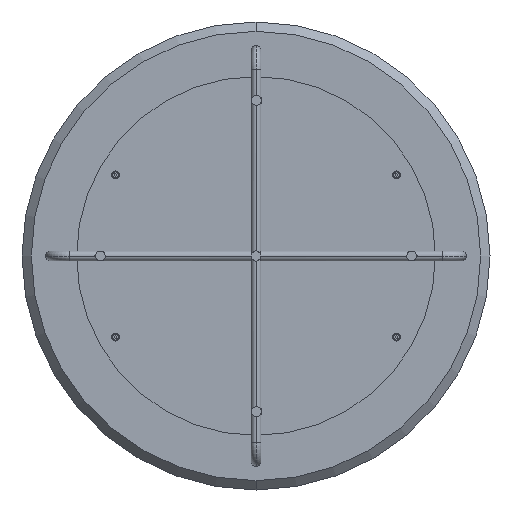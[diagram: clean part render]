
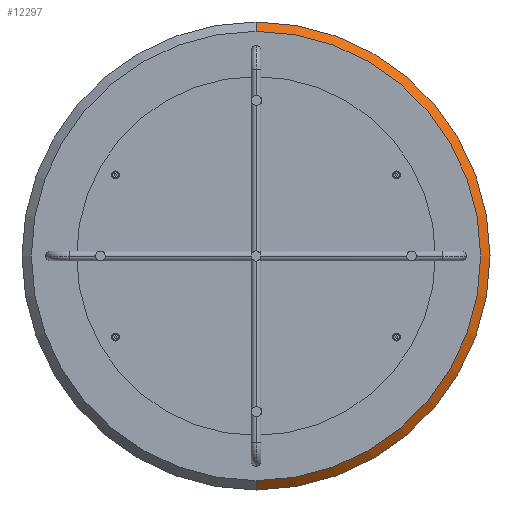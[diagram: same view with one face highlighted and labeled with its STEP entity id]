
A CAD part, front view. The second image highlights one B-rep face of the part: STEP entity #12297.
In plain terms, the highlighted conical face has half-angle 45 degrees and reference radius 375 mm.
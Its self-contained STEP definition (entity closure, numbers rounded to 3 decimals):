
#270 = AXIS2_PLACEMENT_3D ( 'NONE', #3767, #6772, #10858 ) ;
#733 = EDGE_CURVE ( 'NONE', #1216, #8422, #12477, .T. ) ;
#1090 = EDGE_LOOP ( 'NONE', ( #8612, #1617, #4410, #8019 ) ) ;
#1216 = VERTEX_POINT ( 'NONE', #2527 ) ;
#1617 = ORIENTED_EDGE ( 'NONE', *, *, #7826, .T. ) ;
#2266 = DIRECTION ( 'NONE',  ( 0., -1., 0. ) ) ;
#2328 = CARTESIAN_POINT ( 'NONE',  ( 0., 0., 0. ) ) ;
#2493 = CARTESIAN_POINT ( 'NONE',  ( 0., 0., 360. ) ) ;
#2527 = CARTESIAN_POINT ( 'NONE',  ( 0., 15., 375. ) ) ;
#3317 = DIRECTION ( 'NONE',  ( 0., 0., 1. ) ) ;
#3445 = CARTESIAN_POINT ( 'NONE',  ( 0., 15., 375. ) ) ;
#3767 = CARTESIAN_POINT ( 'NONE',  ( 0., 15., 0. ) ) ;
#4410 = ORIENTED_EDGE ( 'NONE', *, *, #733, .F. ) ;
#4438 = LINE ( 'NONE', #3445, #12041 ) ;
#4949 = CIRCLE ( 'NONE', #10504, 360. ) ;
#5564 = CONICAL_SURFACE ( 'NONE', #270, 375., 0.785 ) ;
#5769 = VERTEX_POINT ( 'NONE', #13137 ) ;
#6114 = EDGE_CURVE ( 'NONE', #7854, #1216, #4438, .T. ) ;
#6361 = DIRECTION ( 'NONE',  ( 0., 1., 0. ) ) ;
#6772 = DIRECTION ( 'NONE',  ( 0., 1., 0. ) ) ;
#7163 = AXIS2_PLACEMENT_3D ( 'NONE', #11553, #6361, #11686 ) ;
#7449 = CARTESIAN_POINT ( 'NONE',  ( 0., 15., -375. ) ) ;
#7826 = EDGE_CURVE ( 'NONE', #5769, #8422, #11701, .T. ) ;
#7854 = VERTEX_POINT ( 'NONE', #2493 ) ;
#8019 = ORIENTED_EDGE ( 'NONE', *, *, #6114, .F. ) ;
#8422 = VERTEX_POINT ( 'NONE', #7449 ) ;
#8612 = ORIENTED_EDGE ( 'NONE', *, *, #10917, .F. ) ;
#8648 = CARTESIAN_POINT ( 'NONE',  ( 0., 15., -375. ) ) ;
#10504 = AXIS2_PLACEMENT_3D ( 'NONE', #2328, #2266, #3317 ) ;
#10712 = DIRECTION ( 'NONE',  ( 0., 0.707, -0.707 ) ) ;
#10858 = DIRECTION ( 'NONE',  ( 0., 0., 1. ) ) ;
#10917 = EDGE_CURVE ( 'NONE', #5769, #7854, #4949, .T. ) ;
#11413 = DIRECTION ( 'NONE',  ( 0., 0.707, 0.707 ) ) ;
#11553 = CARTESIAN_POINT ( 'NONE',  ( 0., 15., 0. ) ) ;
#11655 = FACE_OUTER_BOUND ( 'NONE', #1090, .T. ) ;
#11686 = DIRECTION ( 'NONE',  ( 0., 0., 1. ) ) ;
#11701 = LINE ( 'NONE', #8648, #12219 ) ;
#12041 = VECTOR ( 'NONE', #11413, 1000. ) ;
#12219 = VECTOR ( 'NONE', #10712, 1000. ) ;
#12297 = ADVANCED_FACE ( 'NONE', ( #11655 ), #5564, .T. ) ;
#12477 = CIRCLE ( 'NONE', #7163, 375. ) ;
#13137 = CARTESIAN_POINT ( 'NONE',  ( 0., 0., -360. ) ) ;
